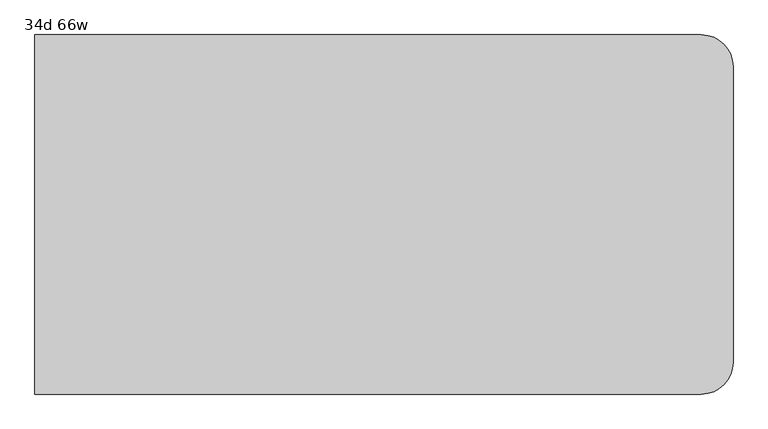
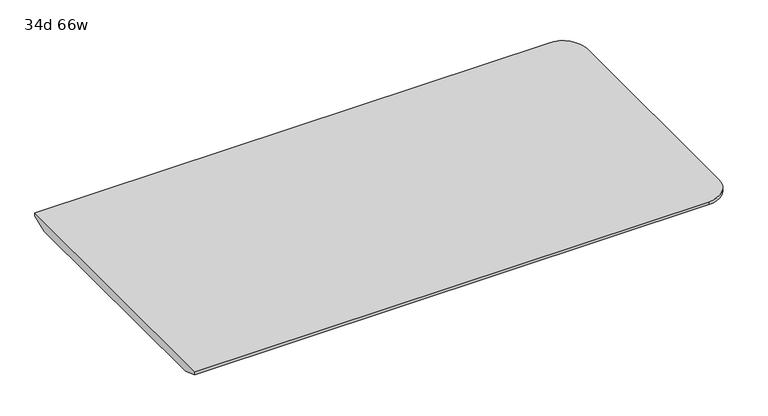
"""IFC4 building model written with IfcOpenShell, lengths in millimetres: furniture geometry, Haworth_ActiveComponents_RectangleConvergentConferenceEnd : 34d 66w."""

from ifc_helpers import new_model, si_unit, frame, origin, place, context, project, spatial, polyline, circle_curve, source, transform, mapped, element, save
from ifc_brep_helpers import plane_surface, cylinder_surface, revolved_surface, advanced_brep


def furniture_34d_66w_54418c4b(model_context):
    return source(origin(), model_context, "Body", "AdvancedBrep", [
        advanced_brep(
        [(1206.5, 232.0465234, 741.3625), (-393.7, 232.0465234, 741.3625), (-393.7, -631.5534766, 741.3625), (1206.5, -631.5534766, 741.3625), (1282.7, -555.3534766, 741.3625), (1282.7, 155.8465234, 741.3625), (-393.7, -580.7534766, 711.2), (-393.7, 181.2465234, 711.2), (1206.5, 181.2465234, 711.2), (1231.9, 155.8465234, 711.2), (1231.9, -555.3534766, 711.2), (1206.5, -580.7534766, 711.2), (1206.5, 232.0465234, 731.8375), (-393.7, 232.0465234, 731.8375), (-393.7, -631.5534766, 731.8375), (1206.5, -631.5534766, 731.8375), (1282.7, -555.3534766, 731.8375), (1282.7, 155.8465234, 731.8375)],
        [
            (0, 1),
            (1, 2),
            (2, 3),
            (3, 4, circle_curve(frame((1206.5, -555.3534766, 741.3625), z_axis=(0.0, 0.0, 1.0), x_axis=(1.0, 0.0, 0.0)), 76.2)),
            (4, 5),
            (5, 0, circle_curve(frame((1206.5, 155.8465234, 741.3625), z_axis=(0.0, 0.0, 1.0), x_axis=(1.0, 0.0, 0.0)), 76.2)),
            (6, 7),
            (7, 8),
            (8, 9, circle_curve(frame((1206.5, 155.8465234, 711.2), z_axis=(0.0, 0.0, -1.0), x_axis=(1.0, 0.0, 0.0)), 25.4)),
            (9, 10),
            (10, 11, circle_curve(frame((1206.5, -555.3534766, 711.2), z_axis=(0.0, 0.0, -1.0), x_axis=(0.0, -1.0, 0.0)), 25.4)),
            (11, 6),
            (0, 12),
            (12, 13),
            (13, 1),
            (13, 7),
            (6, 14),
            (14, 2),
            (14, 15),
            (15, 3),
            (4, 16),
            (16, 17),
            (17, 5),
            (11, 15),
            (10, 16),
            (16, 15, circle_curve(frame((1206.5, -555.3534766, 731.8375), z_axis=(0.0, 0.0, -1.0), x_axis=(0.0, -1.0, 0.0)), 76.2)),
            (9, 17),
            (17, 12, circle_curve(frame((1206.5, 155.8465234, 731.8375), z_axis=(0.0, 0.0, 1.0), x_axis=(1.0, 0.0, 0.0)), 76.2)),
            (8, 12),
        ],
        [
            plane_surface(frame((-393.7, 232.0465234, 741.3625), z_axis=(0.0, 0.0, 1.0), x_axis=(-1.0, 0.0, 0.0))),
            plane_surface(frame((-393.7, 232.0465234, 711.2), z_axis=(0.0, 0.0, -1.0), x_axis=(1.0, 0.0, 0.0))),
            plane_surface(frame((1206.5, 232.0465234, 741.3625), z_axis=(0.0, 1.0, 0.0), x_axis=(0.0, 0.0, -1.0))),
            plane_surface(frame((-393.7, 232.0465234, 741.3625), z_axis=(-1.0, 0.0, 0.0), x_axis=(0.0, 0.0, -1.0))),
            plane_surface(frame((-393.7, -631.5534766, 741.3625), z_axis=(0.0, -1.0, 0.0), x_axis=(0.0, 0.0, -1.0))),
            plane_surface(frame((1282.7, -555.3534766, 741.3625), z_axis=(1.0, 0.0, 0.0), x_axis=(0.0, 0.0, -1.0))),
            plane_surface(frame((-393.7, -631.5534766, 731.8375), z_axis=(0.0, -0.37637704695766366, -0.9264665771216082), x_axis=(1.0, 0.0, 0.0))),
            revolved_surface(polyline([(1206.5, -580.7534766, 711.2), (1206.5, -631.5534766, 731.8375)]), (1206.5, -555.3534766, 0.0), (0.0, 0.0, 1.0)),
            plane_surface(frame((1282.7, -555.3534766, 731.8375), z_axis=(0.37637704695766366, 0.0, -0.9264665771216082), x_axis=(0.0, 1.0, 0.0))),
            cylinder_surface(frame((1206.5, -555.3534766, 711.2), z_axis=(0.0, 0.0, 1.0), x_axis=(1.0, 0.0, 0.0)), 76.2),
            cylinder_surface(frame((1206.5, 155.8465234, 711.2), z_axis=(0.0, 0.0, 1.0), x_axis=(1.0, 0.0, 0.0)), 76.2),
            revolved_surface(polyline([(1231.9, 155.8465234, 711.2), (1282.7, 155.8465234, 731.8375)]), (1206.5, 155.8465234, 0.0), (0.0, 0.0, 1.0)),
            plane_surface(frame((1206.5, 232.0465234, 731.8375), z_axis=(0.0, 0.37637704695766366, -0.9264665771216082), x_axis=(-1.0, 0.0, 0.0))),
        ],
        [
            (0, [[1, 2, 3, 4, 5, 6]]),
            (1, [[7, 8, 9, 10, 11, 12]]),
            (2, [[-1, 13, 14, 15]]),
            (3, [[-2, -15, 16, -7, 17, 18]]),
            (4, [[-3, -18, 19, 20]]),
            (5, [[-5, 21, 22, 23]]),
            (6, [[24, -19, -17, -12]]),
            (7, [[-24, -11, 25, 26]]),
            (8, [[-25, -10, 27, -22]]),
            (9, [[-4, -20, -26, -21]]),
            (10, [[-6, -23, 28, -13]]),
            (11, [[-27, -9, 29, -28]]),
            (12, [[-29, -8, -16, -14]]),
        ],
    ),
    ])


if __name__ == "__main__":
    model = new_model("IFC4")
    model_context = context("Model", 3, world=origin())
    ifc_project = project(units=[si_unit("LENGTHUNIT", "METRE", prefix="MILLI")], contexts=[model_context])
    site = spatial("IfcSite", under=ifc_project)
    building = spatial("IfcBuilding", under=site)
    placement = place(None, origin())
    furniture_34d_66w_shape = furniture_34d_66w_54418c4b(model_context)
    element("IfcFurniture", 1, ObjectType="Haworth_ActiveComponents_RectangleConvergentConferenceEnd : 34d 66w", at=placement, inside=building, context=model_context, shape_type="MappedRepresentation", body=[
        mapped(furniture_34d_66w_shape, transform((0.0, 0.0, 0.0), x_axis=(1.0, 0.0, 0.0), y_axis=(0.0, 1.0, 0.0), z_axis=(0.0, 0.0, 1.0))),
    ])
    save(model, "model.ifc")
